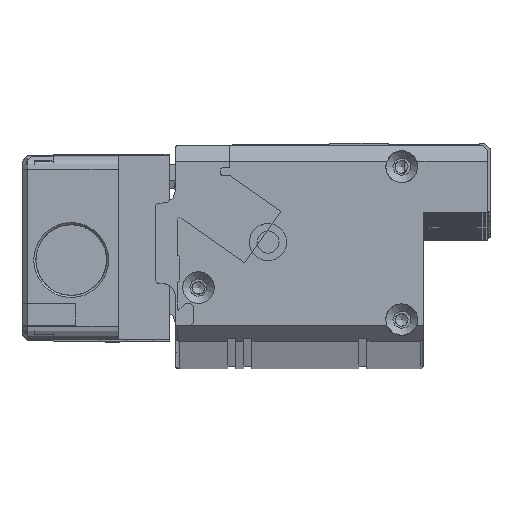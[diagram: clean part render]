
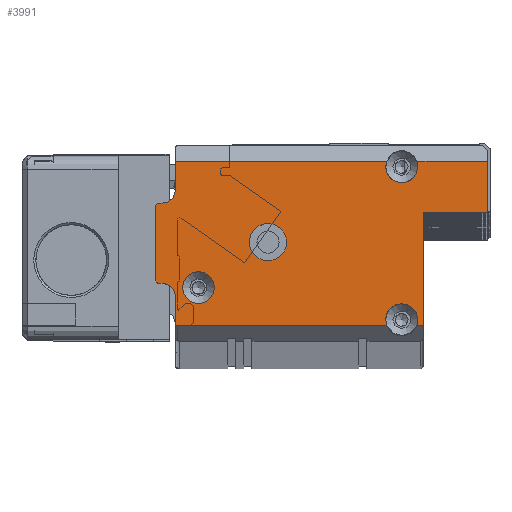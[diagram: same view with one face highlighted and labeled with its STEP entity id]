
A CAD part, top view. The second image highlights one B-rep face of the part: STEP entity #3991.
In plain terms, the highlighted planar face has unit normal (0, 0, 1).
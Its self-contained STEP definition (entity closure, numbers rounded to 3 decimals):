
#3991=ADVANCED_FACE('',(#5367,#5368,#5369),#4981,.T.);
#4981=PLANE('',#33666);
#5367=FACE_BOUND('',#7110,.T.);
#5368=FACE_BOUND('',#7111,.T.);
#5369=FACE_BOUND('',#7112,.T.);
#7110=EDGE_LOOP('',(#17131));
#7111=EDGE_LOOP('',(#17132,#17133,#17134,#17135,#17136,#17137,#17138,#17139,
#17140,#17141,#17142,#17143,#17144,#17145,#17146,#17147,#17148,#17149,#17150,
#17151));
#7112=EDGE_LOOP('',(#17152));
#8328=CIRCLE('',#33656,3.);
#8329=CIRCLE('',#33657,3.);
#8330=CIRCLE('',#33658,0.5);
#8331=CIRCLE('',#33659,0.5);
#8332=CIRCLE('',#33660,3.);
#8333=CIRCLE('',#33661,2.5);
#8334=CIRCLE('',#33662,0.5);
#8335=CIRCLE('',#33663,0.5);
#8336=CIRCLE('',#33664,2.5);
#8337=CIRCLE('',#33665,3.5);
#17131=ORIENTED_EDGE('',*,*,#24812,.T.);
#17132=ORIENTED_EDGE('',*,*,#24813,.T.);
#17133=ORIENTED_EDGE('',*,*,#24814,.T.);
#17134=ORIENTED_EDGE('',*,*,#24815,.T.);
#17135=ORIENTED_EDGE('',*,*,#24816,.T.);
#17136=ORIENTED_EDGE('',*,*,#24817,.T.);
#17137=ORIENTED_EDGE('',*,*,#24818,.T.);
#17138=ORIENTED_EDGE('',*,*,#24819,.T.);
#17139=ORIENTED_EDGE('',*,*,#24820,.T.);
#17140=ORIENTED_EDGE('',*,*,#24821,.T.);
#17141=ORIENTED_EDGE('',*,*,#24822,.T.);
#17142=ORIENTED_EDGE('',*,*,#24823,.T.);
#17143=ORIENTED_EDGE('',*,*,#24824,.T.);
#17144=ORIENTED_EDGE('',*,*,#24825,.T.);
#17145=ORIENTED_EDGE('',*,*,#24826,.T.);
#17146=ORIENTED_EDGE('',*,*,#24827,.T.);
#17147=ORIENTED_EDGE('',*,*,#24828,.T.);
#17148=ORIENTED_EDGE('',*,*,#24829,.T.);
#17149=ORIENTED_EDGE('',*,*,#24830,.T.);
#17150=ORIENTED_EDGE('',*,*,#24831,.T.);
#17151=ORIENTED_EDGE('',*,*,#24832,.T.);
#17152=ORIENTED_EDGE('',*,*,#24833,.T.);
#20340=VERTEX_POINT('',#53248);
#20341=VERTEX_POINT('',#53250);
#20342=VERTEX_POINT('',#53251);
#20343=VERTEX_POINT('',#53253);
#20344=VERTEX_POINT('',#53255);
#20345=VERTEX_POINT('',#53257);
#20346=VERTEX_POINT('',#53259);
#20347=VERTEX_POINT('',#53261);
#20348=VERTEX_POINT('',#53263);
#20349=VERTEX_POINT('',#53265);
#20350=VERTEX_POINT('',#53267);
#20351=VERTEX_POINT('',#53269);
#20352=VERTEX_POINT('',#53271);
#20353=VERTEX_POINT('',#53273);
#20354=VERTEX_POINT('',#53275);
#20355=VERTEX_POINT('',#53277);
#20356=VERTEX_POINT('',#53279);
#20357=VERTEX_POINT('',#53281);
#20358=VERTEX_POINT('',#53283);
#20359=VERTEX_POINT('',#53285);
#20360=VERTEX_POINT('',#53287);
#20361=VERTEX_POINT('',#53290);
#24812=EDGE_CURVE('',#20340,#20340,#8328,.T.);
#24813=EDGE_CURVE('',#20341,#20342,#8329,.T.);
#24814=EDGE_CURVE('',#20342,#20343,#27760,.T.);
#24815=EDGE_CURVE('',#20343,#20344,#27761,.T.);
#24816=EDGE_CURVE('',#20344,#20345,#8330,.T.);
#24817=EDGE_CURVE('',#20345,#20346,#27762,.T.);
#24818=EDGE_CURVE('',#20346,#20347,#8331,.T.);
#24819=EDGE_CURVE('',#20347,#20348,#27763,.T.);
#24820=EDGE_CURVE('',#20348,#20349,#27764,.T.);
#24821=EDGE_CURVE('',#20349,#20350,#8332,.T.);
#24822=EDGE_CURVE('',#20350,#20351,#27765,.T.);
#24823=EDGE_CURVE('',#20351,#20352,#27766,.T.);
#24824=EDGE_CURVE('',#20352,#20353,#8333,.T.);
#24825=EDGE_CURVE('',#20353,#20354,#27767,.T.);
#24826=EDGE_CURVE('',#20354,#20355,#8334,.T.);
#24827=EDGE_CURVE('',#20355,#20356,#27768,.T.);
#24828=EDGE_CURVE('',#20356,#20357,#8335,.T.);
#24829=EDGE_CURVE('',#20357,#20358,#27769,.T.);
#24830=EDGE_CURVE('',#20358,#20359,#8336,.T.);
#24831=EDGE_CURVE('',#20359,#20360,#27770,.T.);
#24832=EDGE_CURVE('',#20360,#20341,#27771,.T.);
#24833=EDGE_CURVE('',#20361,#20361,#8337,.T.);
#27760=LINE('',#53252,#30674);
#27761=LINE('',#53254,#30675);
#27762=LINE('',#53258,#30676);
#27763=LINE('',#53262,#30677);
#27764=LINE('',#53264,#30678);
#27765=LINE('',#53268,#30679);
#27766=LINE('',#53270,#30680);
#27767=LINE('',#53274,#30681);
#27768=LINE('',#53278,#30682);
#27769=LINE('',#53282,#30683);
#27770=LINE('',#53286,#30684);
#27771=LINE('',#53288,#30685);
#30674=VECTOR('',#42365,1.);
#30675=VECTOR('',#42366,1.);
#30676=VECTOR('',#42369,1.);
#30677=VECTOR('',#42372,1.);
#30678=VECTOR('',#42373,1.);
#30679=VECTOR('',#42376,1.);
#30680=VECTOR('',#42377,1.);
#30681=VECTOR('',#42380,1.);
#30682=VECTOR('',#42383,1.);
#30683=VECTOR('',#42386,1.);
#30684=VECTOR('',#42389,1.);
#30685=VECTOR('',#42390,1.);
#33656=AXIS2_PLACEMENT_3D('',#53247,#42361,#42362);
#33657=AXIS2_PLACEMENT_3D('',#53249,#42363,#42364);
#33658=AXIS2_PLACEMENT_3D('',#53256,#42367,#42368);
#33659=AXIS2_PLACEMENT_3D('',#53260,#42370,#42371);
#33660=AXIS2_PLACEMENT_3D('',#53266,#42374,#42375);
#33661=AXIS2_PLACEMENT_3D('',#53272,#42378,#42379);
#33662=AXIS2_PLACEMENT_3D('',#53276,#42381,#42382);
#33663=AXIS2_PLACEMENT_3D('',#53280,#42384,#42385);
#33664=AXIS2_PLACEMENT_3D('',#53284,#42387,#42388);
#33665=AXIS2_PLACEMENT_3D('',#53289,#42391,#42392);
#33666=AXIS2_PLACEMENT_3D('',#53291,#42393,#42394);
#42361=DIRECTION('',(0.,0.,-1.));
#42362=DIRECTION('',(-1.,0.,0.));
#42363=DIRECTION('',(0.,0.,-1.));
#42364=DIRECTION('',(-1.,0.,0.));
#42365=DIRECTION('',(1.,0.,0.));
#42366=DIRECTION('',(0.,1.,0.));
#42367=DIRECTION('',(0.,0.,-1.));
#42368=DIRECTION('',(1.,0.,0.));
#42369=DIRECTION('',(1.,0.,0.));
#42370=DIRECTION('',(0.,0.,1.));
#42371=DIRECTION('',(1.,0.,0.));
#42372=DIRECTION('',(0.,1.,0.));
#42373=DIRECTION('',(-1.,0.,0.));
#42374=DIRECTION('',(0.,0.,-1.));
#42375=DIRECTION('',(-1.,0.,0.));
#42376=DIRECTION('',(-1.,0.,0.));
#42377=DIRECTION('',(0.,-1.,0.));
#42378=DIRECTION('',(0.,0.,-1.));
#42379=DIRECTION('',(1.,0.,0.));
#42380=DIRECTION('',(-1.,0.,0.));
#42381=DIRECTION('',(0.,0.,1.));
#42382=DIRECTION('',(1.,0.,0.));
#42383=DIRECTION('',(0.,-1.,0.));
#42384=DIRECTION('',(0.,0.,1.));
#42385=DIRECTION('',(1.,0.,0.));
#42386=DIRECTION('',(1.,0.,0.));
#42387=DIRECTION('',(0.,0.,-1.));
#42388=DIRECTION('',(1.,0.,0.));
#42389=DIRECTION('',(0.,-1.,0.));
#42390=DIRECTION('',(1.,0.,0.));
#42391=DIRECTION('',(0.,0.,-1.));
#42392=DIRECTION('',(-1.,0.,0.));
#42393=DIRECTION('',(0.,0.,1.));
#42394=DIRECTION('',(-1.,0.,0.));
#53247=CARTESIAN_POINT('',(8.,-26.6,8.));
#53248=CARTESIAN_POINT('',(5.,-26.6,8.));
#53249=CARTESIAN_POINT('',(46.,-32.6,8.));
#53250=CARTESIAN_POINT('',(43.172,-33.6,8.));
#53251=CARTESIAN_POINT('',(48.828,-33.6,8.));
#53252=CARTESIAN_POINT('',(50.,-33.6,8.));
#53253=CARTESIAN_POINT('',(50.,-33.6,8.));
#53254=CARTESIAN_POINT('',(50.,-36.6,8.));
#53255=CARTESIAN_POINT('',(50.,-13.1,8.));
#53256=CARTESIAN_POINT('',(50.5,-13.1,8.));
#53257=CARTESIAN_POINT('',(50.5,-12.6,8.));
#53258=CARTESIAN_POINT('',(50.,-12.6,8.));
#53259=CARTESIAN_POINT('',(61.6,-12.6,8.));
#53260=CARTESIAN_POINT('',(61.6,-12.1,8.));
#53261=CARTESIAN_POINT('',(62.1,-12.1,8.));
#53262=CARTESIAN_POINT('',(62.1,-12.6,8.));
#53263=CARTESIAN_POINT('',(62.1,-3.,8.));
#53264=CARTESIAN_POINT('',(3.7,-3.,8.));
#53265=CARTESIAN_POINT('',(48.828,-3.,8.));
#53266=CARTESIAN_POINT('',(46.,-4.,8.));
#53267=CARTESIAN_POINT('',(43.172,-3.,8.));
#53268=CARTESIAN_POINT('',(3.7,-3.,8.));
#53269=CARTESIAN_POINT('',(3.7,-3.,8.));
#53270=CARTESIAN_POINT('',(3.7,0.,8.));
#53271=CARTESIAN_POINT('',(3.7,-8.3,8.));
#53272=CARTESIAN_POINT('',(1.2,-8.3,8.));
#53273=CARTESIAN_POINT('',(1.2,-10.8,8.));
#53274=CARTESIAN_POINT('',(3.7,-10.8,8.));
#53275=CARTESIAN_POINT('',(0.5,-10.8,8.));
#53276=CARTESIAN_POINT('',(0.5,-11.3,8.));
#53277=CARTESIAN_POINT('',(0.,-11.3,8.));
#53278=CARTESIAN_POINT('',(0.,-10.8,8.));
#53279=CARTESIAN_POINT('',(0.,-25.3,8.));
#53280=CARTESIAN_POINT('',(0.5,-25.3,8.));
#53281=CARTESIAN_POINT('',(0.5,-25.8,8.));
#53282=CARTESIAN_POINT('',(0.,-25.8,8.));
#53283=CARTESIAN_POINT('',(1.2,-25.8,8.));
#53284=CARTESIAN_POINT('',(1.2,-28.3,8.));
#53285=CARTESIAN_POINT('',(3.7,-28.3,8.));
#53286=CARTESIAN_POINT('',(3.7,-25.8,8.));
#53287=CARTESIAN_POINT('',(3.7,-33.6,8.));
#53288=CARTESIAN_POINT('',(50.,-33.6,8.));
#53289=CARTESIAN_POINT('',(21.,-18.1,8.));
#53290=CARTESIAN_POINT('',(17.5,-18.1,8.));
#53291=CARTESIAN_POINT('',(0.,0.,8.));
